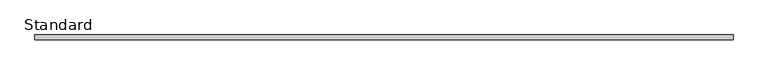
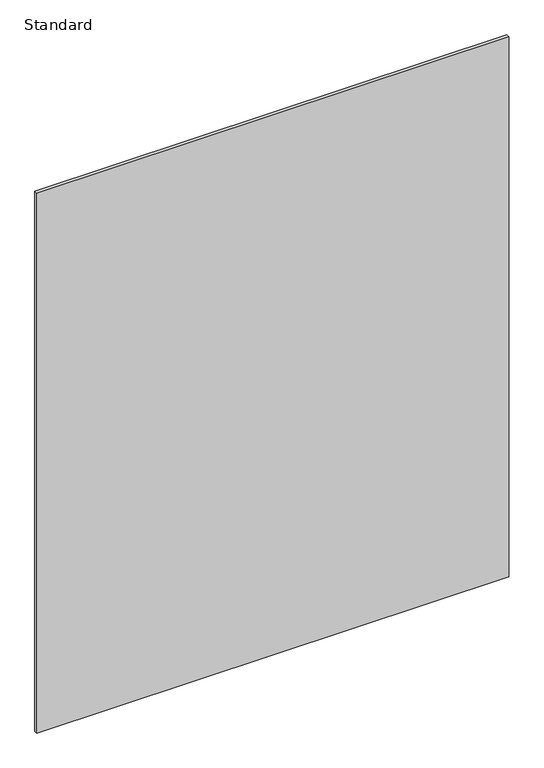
"""IFC4 building model written with IfcOpenShell, lengths in millimetres: furniture geometry, X_Partition-Compact Laminate-Duracube-Rectangular : Standard."""

from ifc_helpers import new_model, si_unit, frame, origin, place, context, project, spatial, polyline, outline, extrude, source, transform, mapped, element, save


def standard_c26dc9b4(model_context):
    return source(origin(), model_context, "Body", "SweptSolid", [
        extrude(outline(polyline([(954.2003264, 0.0), (954.2003264, -13.0), (-864.7996736, -13.0), (-864.7996736, 0.0), (954.2003264, 0.0)])), frame((0.0, 0.0, 200.0), z_axis=(0.0, 0.0, 1.0), x_axis=(1.0, 0.0, 0.0)), (0.0, 0.0, 1.0), 2198.0),
    ])


if __name__ == "__main__":
    model = new_model("IFC4")
    model_context = context("Model", 3, world=origin())
    ifc_project = project(units=[si_unit("LENGTHUNIT", "METRE", prefix="MILLI")], contexts=[model_context])
    site = spatial("IfcSite", under=ifc_project)
    building = spatial("IfcBuilding", under=site)
    placement = place(None, origin())
    standard_shape = standard_c26dc9b4(model_context)
    element("IfcFurniture", 1, ObjectType="X_Partition-Compact Laminate-Duracube-Rectangular : Standard", at=placement, inside=building, context=model_context, shape_type="MappedRepresentation", body=[
        mapped(standard_shape, transform((0.0, 0.0, 0.0), x_axis=(1.0, 0.0, 0.0), y_axis=(0.0, 1.0, 0.0), z_axis=(0.0, 0.0, 1.0))),
    ])
    save(model, "model.ifc")
